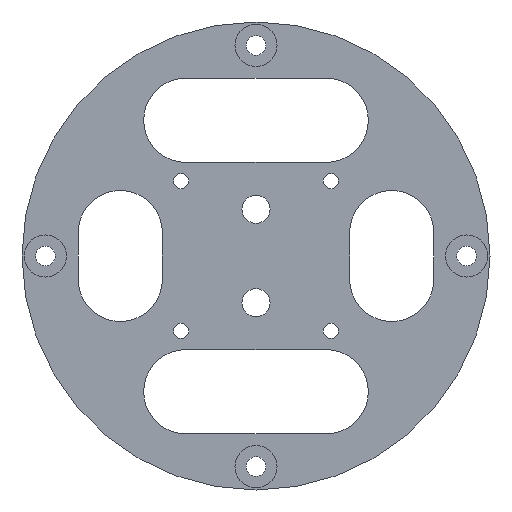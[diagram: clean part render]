
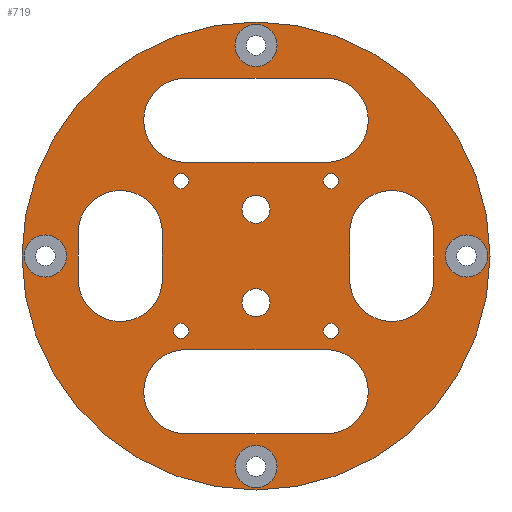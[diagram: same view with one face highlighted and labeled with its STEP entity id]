
A CAD part, front view. The second image highlights one B-rep face of the part: STEP entity #719.
In plain terms, the highlighted planar face has unit normal (0, -1, 0).
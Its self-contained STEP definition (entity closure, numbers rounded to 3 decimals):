
#38=LINE('',#1107,#85);
#43=LINE('',#1120,#90);
#46=LINE('',#1131,#93);
#51=LINE('',#1144,#98);
#59=LINE('',#1185,#106);
#64=LINE('',#1198,#111);
#67=LINE('',#1209,#114);
#72=LINE('',#1222,#119);
#85=VECTOR('',#903,10.);
#90=VECTOR('',#916,10.);
#93=VECTOR('',#927,10.);
#98=VECTOR('',#940,10.);
#106=VECTOR('',#986,10.);
#111=VECTOR('',#999,10.);
#114=VECTOR('',#1010,10.);
#119=VECTOR('',#1023,10.);
#162=FACE_BOUND('',#268,.T.);
#163=FACE_BOUND('',#269,.T.);
#164=FACE_BOUND('',#270,.T.);
#165=FACE_BOUND('',#271,.T.);
#166=FACE_BOUND('',#272,.T.);
#167=FACE_BOUND('',#273,.T.);
#168=FACE_BOUND('',#274,.T.);
#169=FACE_BOUND('',#275,.T.);
#170=FACE_BOUND('',#276,.T.);
#171=FACE_BOUND('',#277,.T.);
#172=FACE_BOUND('',#278,.T.);
#173=FACE_BOUND('',#279,.T.);
#174=FACE_BOUND('',#280,.T.);
#175=FACE_BOUND('',#281,.T.);
#212=FACE_OUTER_BOUND('',#267,.T.);
#267=EDGE_LOOP('',(#642));
#268=EDGE_LOOP('',(#643));
#269=EDGE_LOOP('',(#644));
#270=EDGE_LOOP('',(#645));
#271=EDGE_LOOP('',(#646));
#272=EDGE_LOOP('',(#647));
#273=EDGE_LOOP('',(#648,#649,#650,#651));
#274=EDGE_LOOP('',(#652,#653,#654,#655));
#275=EDGE_LOOP('',(#656));
#276=EDGE_LOOP('',(#657));
#277=EDGE_LOOP('',(#658));
#278=EDGE_LOOP('',(#659));
#279=EDGE_LOOP('',(#660));
#280=EDGE_LOOP('',(#661,#662,#663,#664));
#281=EDGE_LOOP('',(#665,#666,#667,#668));
#284=CIRCLE('',#747,4.5);
#288=CIRCLE('',#754,4.5);
#292=CIRCLE('',#761,4.5);
#296=CIRCLE('',#768,4.5);
#299=CIRCLE('',#773,3.);
#301=CIRCLE('',#777,9.);
#303=CIRCLE('',#781,9.);
#305=CIRCLE('',#785,9.);
#307=CIRCLE('',#789,9.);
#308=CIRCLE('',#791,1.621);
#310=CIRCLE('',#794,1.621);
#312=CIRCLE('',#797,1.621);
#314=CIRCLE('',#800,1.621);
#317=CIRCLE('',#804,3.);
#319=CIRCLE('',#808,9.);
#321=CIRCLE('',#812,9.);
#323=CIRCLE('',#816,9.);
#325=CIRCLE('',#820,9.);
#327=CIRCLE('',#823,50.);
#330=VERTEX_POINT('',#1048);
#334=VERTEX_POINT('',#1061);
#338=VERTEX_POINT('',#1074);
#342=VERTEX_POINT('',#1087);
#345=VERTEX_POINT('',#1097);
#348=VERTEX_POINT('',#1104);
#349=VERTEX_POINT('',#1106);
#351=VERTEX_POINT('',#1112);
#353=VERTEX_POINT('',#1118);
#356=VERTEX_POINT('',#1128);
#357=VERTEX_POINT('',#1130);
#359=VERTEX_POINT('',#1136);
#361=VERTEX_POINT('',#1142);
#362=VERTEX_POINT('',#1149);
#364=VERTEX_POINT('',#1155);
#366=VERTEX_POINT('',#1161);
#368=VERTEX_POINT('',#1167);
#371=VERTEX_POINT('',#1175);
#374=VERTEX_POINT('',#1182);
#375=VERTEX_POINT('',#1184);
#377=VERTEX_POINT('',#1190);
#379=VERTEX_POINT('',#1196);
#382=VERTEX_POINT('',#1206);
#383=VERTEX_POINT('',#1208);
#385=VERTEX_POINT('',#1214);
#387=VERTEX_POINT('',#1220);
#389=VERTEX_POINT('',#1229);
#393=EDGE_CURVE('',#330,#330,#284,.T.);
#399=EDGE_CURVE('',#334,#334,#288,.T.);
#405=EDGE_CURVE('',#338,#338,#292,.T.);
#411=EDGE_CURVE('',#342,#342,#296,.T.);
#416=EDGE_CURVE('',#345,#345,#299,.T.);
#419=EDGE_CURVE('',#349,#348,#38,.T.);
#423=EDGE_CURVE('',#348,#351,#301,.T.);
#426=EDGE_CURVE('',#351,#353,#43,.T.);
#428=EDGE_CURVE('',#353,#349,#303,.T.);
#431=EDGE_CURVE('',#357,#356,#46,.T.);
#435=EDGE_CURVE('',#356,#359,#305,.T.);
#438=EDGE_CURVE('',#359,#361,#51,.T.);
#440=EDGE_CURVE('',#361,#357,#307,.T.);
#441=EDGE_CURVE('',#362,#362,#308,.T.);
#444=EDGE_CURVE('',#364,#364,#310,.T.);
#447=EDGE_CURVE('',#366,#366,#312,.T.);
#450=EDGE_CURVE('',#368,#368,#314,.T.);
#455=EDGE_CURVE('',#371,#371,#317,.T.);
#458=EDGE_CURVE('',#375,#374,#59,.T.);
#462=EDGE_CURVE('',#374,#377,#319,.T.);
#465=EDGE_CURVE('',#377,#379,#64,.T.);
#467=EDGE_CURVE('',#379,#375,#321,.T.);
#470=EDGE_CURVE('',#383,#382,#67,.T.);
#474=EDGE_CURVE('',#382,#385,#323,.T.);
#477=EDGE_CURVE('',#385,#387,#72,.T.);
#479=EDGE_CURVE('',#387,#383,#325,.T.);
#482=EDGE_CURVE('',#389,#389,#327,.T.);
#642=ORIENTED_EDGE('',*,*,#482,.F.);
#643=ORIENTED_EDGE('',*,*,#393,.T.);
#644=ORIENTED_EDGE('',*,*,#399,.T.);
#645=ORIENTED_EDGE('',*,*,#405,.T.);
#646=ORIENTED_EDGE('',*,*,#411,.T.);
#647=ORIENTED_EDGE('',*,*,#416,.T.);
#648=ORIENTED_EDGE('',*,*,#419,.T.);
#649=ORIENTED_EDGE('',*,*,#423,.T.);
#650=ORIENTED_EDGE('',*,*,#426,.T.);
#651=ORIENTED_EDGE('',*,*,#428,.T.);
#652=ORIENTED_EDGE('',*,*,#431,.T.);
#653=ORIENTED_EDGE('',*,*,#435,.T.);
#654=ORIENTED_EDGE('',*,*,#438,.T.);
#655=ORIENTED_EDGE('',*,*,#440,.T.);
#656=ORIENTED_EDGE('',*,*,#441,.T.);
#657=ORIENTED_EDGE('',*,*,#444,.T.);
#658=ORIENTED_EDGE('',*,*,#447,.T.);
#659=ORIENTED_EDGE('',*,*,#450,.T.);
#660=ORIENTED_EDGE('',*,*,#455,.T.);
#661=ORIENTED_EDGE('',*,*,#458,.T.);
#662=ORIENTED_EDGE('',*,*,#462,.T.);
#663=ORIENTED_EDGE('',*,*,#465,.T.);
#664=ORIENTED_EDGE('',*,*,#467,.T.);
#665=ORIENTED_EDGE('',*,*,#470,.T.);
#666=ORIENTED_EDGE('',*,*,#474,.T.);
#667=ORIENTED_EDGE('',*,*,#477,.T.);
#668=ORIENTED_EDGE('',*,*,#479,.T.);
#682=PLANE('',#825);
#719=ADVANCED_FACE('',(#212,#162,#163,#164,#165,#166,#167,#168,#169,#170,
#171,#172,#173,#174,#175),#682,.F.);
#747=AXIS2_PLACEMENT_3D('',#1050,#837,#838);
#754=AXIS2_PLACEMENT_3D('',#1063,#853,#854);
#761=AXIS2_PLACEMENT_3D('',#1076,#869,#870);
#768=AXIS2_PLACEMENT_3D('',#1089,#885,#886);
#773=AXIS2_PLACEMENT_3D('',#1099,#897,#898);
#777=AXIS2_PLACEMENT_3D('',#1114,#910,#911);
#781=AXIS2_PLACEMENT_3D('',#1123,#921,#922);
#785=AXIS2_PLACEMENT_3D('',#1138,#934,#935);
#789=AXIS2_PLACEMENT_3D('',#1147,#945,#946);
#791=AXIS2_PLACEMENT_3D('',#1150,#949,#950);
#794=AXIS2_PLACEMENT_3D('',#1156,#956,#957);
#797=AXIS2_PLACEMENT_3D('',#1162,#963,#964);
#800=AXIS2_PLACEMENT_3D('',#1168,#970,#971);
#804=AXIS2_PLACEMENT_3D('',#1177,#980,#981);
#808=AXIS2_PLACEMENT_3D('',#1192,#993,#994);
#812=AXIS2_PLACEMENT_3D('',#1201,#1004,#1005);
#816=AXIS2_PLACEMENT_3D('',#1216,#1017,#1018);
#820=AXIS2_PLACEMENT_3D('',#1225,#1028,#1029);
#823=AXIS2_PLACEMENT_3D('',#1231,#1035,#1036);
#825=AXIS2_PLACEMENT_3D('',#1233,#1039,#1040);
#837=DIRECTION('center_axis',(0.,1.,0.));
#838=DIRECTION('ref_axis',(1.,0.,0.));
#853=DIRECTION('center_axis',(0.,1.,0.));
#854=DIRECTION('ref_axis',(1.,0.,0.));
#869=DIRECTION('center_axis',(0.,1.,0.));
#870=DIRECTION('ref_axis',(1.,0.,0.));
#885=DIRECTION('center_axis',(0.,1.,0.));
#886=DIRECTION('ref_axis',(1.,0.,0.));
#897=DIRECTION('center_axis',(0.,1.,0.));
#898=DIRECTION('ref_axis',(-1.,0.,0.));
#903=DIRECTION('',(0.,0.,1.));
#910=DIRECTION('center_axis',(0.,1.,0.));
#911=DIRECTION('ref_axis',(-1.,0.,0.));
#916=DIRECTION('',(0.,0.,-1.));
#921=DIRECTION('center_axis',(0.,1.,0.));
#922=DIRECTION('ref_axis',(1.,0.,0.));
#927=DIRECTION('',(1.,0.,0.));
#934=DIRECTION('center_axis',(0.,1.,0.));
#935=DIRECTION('ref_axis',(0.,0.,1.));
#940=DIRECTION('',(-1.,0.,0.));
#945=DIRECTION('center_axis',(0.,1.,0.));
#946=DIRECTION('ref_axis',(0.,0.,-1.));
#949=DIRECTION('center_axis',(0.,1.,0.));
#950=DIRECTION('ref_axis',(1.,0.,0.));
#956=DIRECTION('center_axis',(0.,1.,0.));
#957=DIRECTION('ref_axis',(1.,0.,0.));
#963=DIRECTION('center_axis',(0.,1.,0.));
#964=DIRECTION('ref_axis',(1.,0.,0.));
#970=DIRECTION('center_axis',(0.,1.,0.));
#971=DIRECTION('ref_axis',(1.,0.,0.));
#980=DIRECTION('center_axis',(0.,1.,0.));
#981=DIRECTION('ref_axis',(1.,0.,0.));
#986=DIRECTION('',(0.,0.,-1.));
#993=DIRECTION('center_axis',(0.,1.,0.));
#994=DIRECTION('ref_axis',(1.,0.,0.));
#999=DIRECTION('',(0.,0.,1.));
#1004=DIRECTION('center_axis',(0.,1.,0.));
#1005=DIRECTION('ref_axis',(-1.,0.,0.));
#1010=DIRECTION('',(-1.,0.,0.));
#1017=DIRECTION('center_axis',(0.,1.,0.));
#1018=DIRECTION('ref_axis',(0.,0.,-1.));
#1023=DIRECTION('',(1.,0.,0.));
#1028=DIRECTION('center_axis',(0.,1.,0.));
#1029=DIRECTION('ref_axis',(0.,0.,1.));
#1035=DIRECTION('center_axis',(0.,1.,0.));
#1036=DIRECTION('ref_axis',(-1.,0.,0.));
#1039=DIRECTION('center_axis',(0.,1.,0.));
#1040=DIRECTION('ref_axis',(0.,0.,1.));
#1048=CARTESIAN_POINT('',(-4.5,0.,-45.));
#1050=CARTESIAN_POINT('Origin',(0.,0.,-45.));
#1061=CARTESIAN_POINT('',(-4.5,0.,45.));
#1063=CARTESIAN_POINT('Origin',(0.,0.,45.));
#1074=CARTESIAN_POINT('',(-49.5,0.,0.));
#1076=CARTESIAN_POINT('Origin',(-45.,0.,0.));
#1087=CARTESIAN_POINT('',(40.5,0.,0.));
#1089=CARTESIAN_POINT('Origin',(45.,0.,0.));
#1097=CARTESIAN_POINT('',(3.,0.,-10.));
#1099=CARTESIAN_POINT('Origin',(0.,0.,-10.));
#1104=CARTESIAN_POINT('',(20.,0.,5.));
#1106=CARTESIAN_POINT('',(20.,0.,-5.));
#1107=CARTESIAN_POINT('',(20.,0.,2.5));
#1112=CARTESIAN_POINT('',(38.,0.,5.));
#1114=CARTESIAN_POINT('Origin',(29.,0.,5.));
#1118=CARTESIAN_POINT('',(38.,0.,-5.));
#1120=CARTESIAN_POINT('',(38.,0.,-2.5));
#1123=CARTESIAN_POINT('Origin',(29.,0.,-5.));
#1128=CARTESIAN_POINT('',(15.,0.,-20.));
#1130=CARTESIAN_POINT('',(-15.,0.,-20.));
#1131=CARTESIAN_POINT('',(7.5,0.,-20.));
#1136=CARTESIAN_POINT('',(15.,0.,-38.));
#1138=CARTESIAN_POINT('Origin',(15.,0.,-29.));
#1142=CARTESIAN_POINT('',(-15.,0.,-38.));
#1144=CARTESIAN_POINT('',(-7.5,0.,-38.));
#1147=CARTESIAN_POINT('Origin',(-15.,0.,-29.));
#1149=CARTESIAN_POINT('',(14.379,0.,-16.));
#1150=CARTESIAN_POINT('Origin',(16.,0.,-16.));
#1155=CARTESIAN_POINT('',(-17.621,0.,16.));
#1156=CARTESIAN_POINT('Origin',(-16.,0.,16.));
#1161=CARTESIAN_POINT('',(-17.621,0.,-16.));
#1162=CARTESIAN_POINT('Origin',(-16.,0.,-16.));
#1167=CARTESIAN_POINT('',(14.379,0.,16.));
#1168=CARTESIAN_POINT('Origin',(16.,0.,16.));
#1175=CARTESIAN_POINT('',(-3.,0.,10.));
#1177=CARTESIAN_POINT('Origin',(0.,0.,10.));
#1182=CARTESIAN_POINT('',(-20.,0.,-5.));
#1184=CARTESIAN_POINT('',(-20.,0.,5.));
#1185=CARTESIAN_POINT('',(-20.,0.,-2.5));
#1190=CARTESIAN_POINT('',(-38.,0.,-5.));
#1192=CARTESIAN_POINT('Origin',(-29.,0.,-5.));
#1196=CARTESIAN_POINT('',(-38.,0.,5.));
#1198=CARTESIAN_POINT('',(-38.,0.,2.5));
#1201=CARTESIAN_POINT('Origin',(-29.,0.,5.));
#1206=CARTESIAN_POINT('',(-15.,0.,20.));
#1208=CARTESIAN_POINT('',(15.,0.,20.));
#1209=CARTESIAN_POINT('',(-7.5,0.,20.));
#1214=CARTESIAN_POINT('',(-15.,0.,38.));
#1216=CARTESIAN_POINT('Origin',(-15.,0.,29.));
#1220=CARTESIAN_POINT('',(15.,0.,38.));
#1222=CARTESIAN_POINT('',(7.5,0.,38.));
#1225=CARTESIAN_POINT('Origin',(15.,0.,29.));
#1229=CARTESIAN_POINT('',(50.,0.,0.));
#1231=CARTESIAN_POINT('Origin',(0.,0.,0.));
#1233=CARTESIAN_POINT('Origin',(0.,0.,0.));
